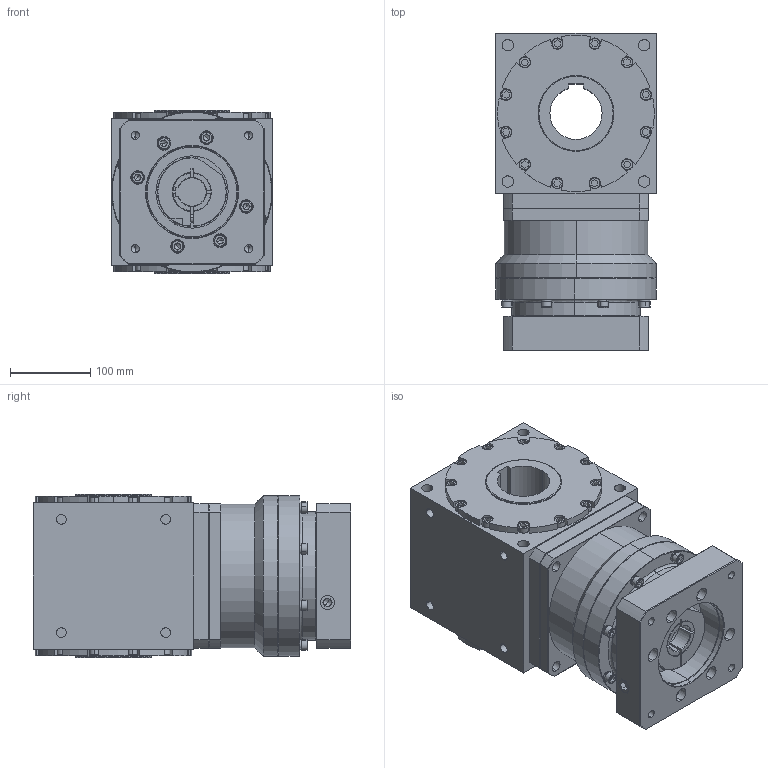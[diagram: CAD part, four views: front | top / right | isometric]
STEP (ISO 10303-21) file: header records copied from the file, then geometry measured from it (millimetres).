
FILE_DESCRIPTION (( 'STEP AP203' ), '1' );
FILE_NAME ('AAW200AS-L1-CR 35-114.3-200-M12.STEP', '2024-12-24T08:50:47', ( '' ), ( '' ), 'SwSTEP 2.0', 'SolidWorks 2021', '' );
FILE_SCHEMA (( 'CONFIG_CONTROL_DESIGN' ));
Length unit declared in the file: millimetre
Products named in the file (3): KS180L1-114.3-35-82-M12-200俋倛芞; AAW200AS-CR; AAW200AS-L1-CR 35-114.3-200-M12
Assembly tree (2 placements, depth 2):
  AAW200AS-L1-CR 35-114.3-200-M12
    AAW200AS-CR
    KS180L1-114.3-35-82-M12-200俋倛芞
Bounding box: 200 x 395.5 x 203 mm (x, y, z)
Volume: 12114965.7 mm3; surface area: 732311.8 mm2
Topology: 36 solids, 36 shells, 1277 faces, 3062 edges, 1931 vertices
Faces by surface type: plane 667, cylinder 435, cone 139, bspline 32, torus 4
Entity records: 37664 total; most frequent: CARTESIAN_POINT 7384, DIRECTION 6509, ORIENTED_EDGE 6020, EDGE_CURVE 3010, AXIS2_PLACEMENT_3D 2410, VERTEX_POINT 1931, VECTOR 1689, LINE 1689
